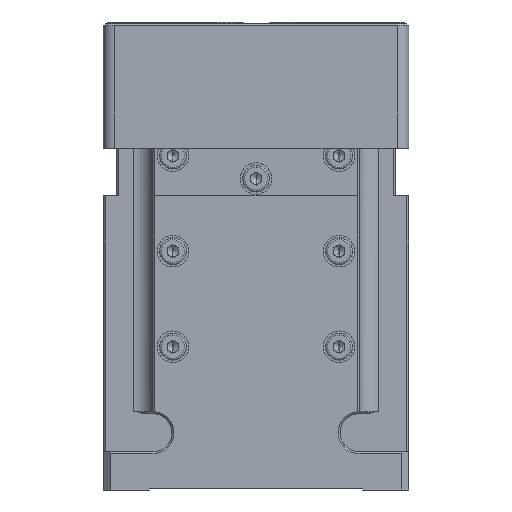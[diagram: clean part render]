
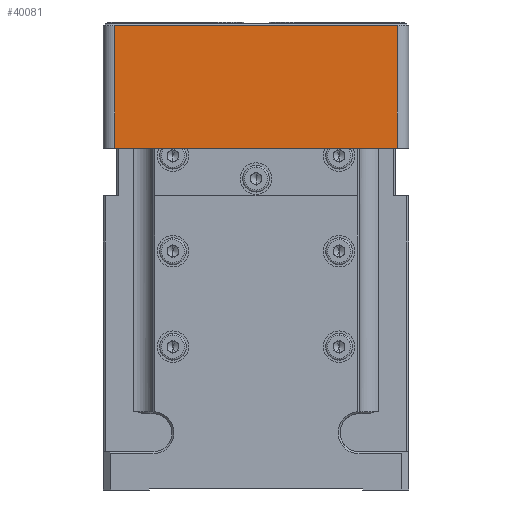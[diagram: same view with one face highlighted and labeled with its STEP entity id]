
A CAD part, front view. The second image highlights one B-rep face of the part: STEP entity #40081.
In plain terms, the highlighted planar face has unit normal (0, -1, 0).
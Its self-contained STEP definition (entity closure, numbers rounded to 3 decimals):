
#399 = VERTEX_POINT ( 'NONE', #18135 ) ;
#4247 = AXIS2_PLACEMENT_3D ( 'NONE', #8973, #12982, #17278 ) ;
#4821 = ORIENTED_EDGE ( 'NONE', *, *, #53937, .T. ) ;
#5450 = VECTOR ( 'NONE', #20340, 1000. ) ;
#6044 = VERTEX_POINT ( 'NONE', #23929 ) ;
#8973 = CARTESIAN_POINT ( 'NONE',  ( -40., -40., 79.5 ) ) ;
#9633 = ORIENTED_EDGE ( 'NONE', *, *, #49767, .T. ) ;
#10311 = VECTOR ( 'NONE', #46215, 1000. ) ;
#12294 = DIRECTION ( 'NONE',  ( -1., 0., 0. ) ) ;
#12982 = DIRECTION ( 'NONE',  ( 0., -1., 0. ) ) ;
#14351 = DIRECTION ( 'NONE',  ( 0., 0., -1. ) ) ;
#15199 = LINE ( 'NONE', #38064, #5450 ) ;
#17162 = LINE ( 'NONE', #46932, #45811 ) ;
#17278 = DIRECTION ( 'NONE',  ( 0., 0., -1. ) ) ;
#18135 = CARTESIAN_POINT ( 'NONE',  ( 37., -40., 79.5 ) ) ;
#18459 = CARTESIAN_POINT ( 'NONE',  ( -37., -40., 79.5 ) ) ;
#18896 = VERTEX_POINT ( 'NONE', #34196 ) ;
#20340 = DIRECTION ( 'NONE',  ( 0., 0., -1. ) ) ;
#22073 = ORIENTED_EDGE ( 'NONE', *, *, #26029, .F. ) ;
#23929 = CARTESIAN_POINT ( 'NONE',  ( -37., -40., 111.5 ) ) ;
#25615 = CARTESIAN_POINT ( 'NONE',  ( -37., -40., 111.5 ) ) ;
#26029 = EDGE_CURVE ( 'NONE', #18896, #399, #15199, .T. ) ;
#28436 = VECTOR ( 'NONE', #14351, 1000. ) ;
#29165 = EDGE_LOOP ( 'NONE', ( #9633, #4821, #22073, #51258 ) ) ;
#34196 = CARTESIAN_POINT ( 'NONE',  ( 37., -40., 111.5 ) ) ;
#37734 = VERTEX_POINT ( 'NONE', #18459 ) ;
#38064 = CARTESIAN_POINT ( 'NONE',  ( 37., -40., 111.5 ) ) ;
#40081 = ADVANCED_FACE ( 'NONE', ( #48186 ), #43045, .T. ) ;
#43045 = PLANE ( 'NONE',  #4247 ) ;
#43079 = LINE ( 'NONE', #25615, #28436 ) ;
#45811 = VECTOR ( 'NONE', #12294, 1000. ) ;
#46215 = DIRECTION ( 'NONE',  ( 1., 0., 0. ) ) ;
#46771 = LINE ( 'NONE', #51068, #10311 ) ;
#46932 = CARTESIAN_POINT ( 'NONE',  ( 37., -40., 111.5 ) ) ;
#48186 = FACE_OUTER_BOUND ( 'NONE', #29165, .T. ) ;
#49767 = EDGE_CURVE ( 'NONE', #6044, #37734, #43079, .T. ) ;
#50071 = EDGE_CURVE ( 'NONE', #18896, #6044, #17162, .T. ) ;
#51068 = CARTESIAN_POINT ( 'NONE',  ( -37., -40., 79.5 ) ) ;
#51258 = ORIENTED_EDGE ( 'NONE', *, *, #50071, .T. ) ;
#53937 = EDGE_CURVE ( 'NONE', #37734, #399, #46771, .T. ) ;
